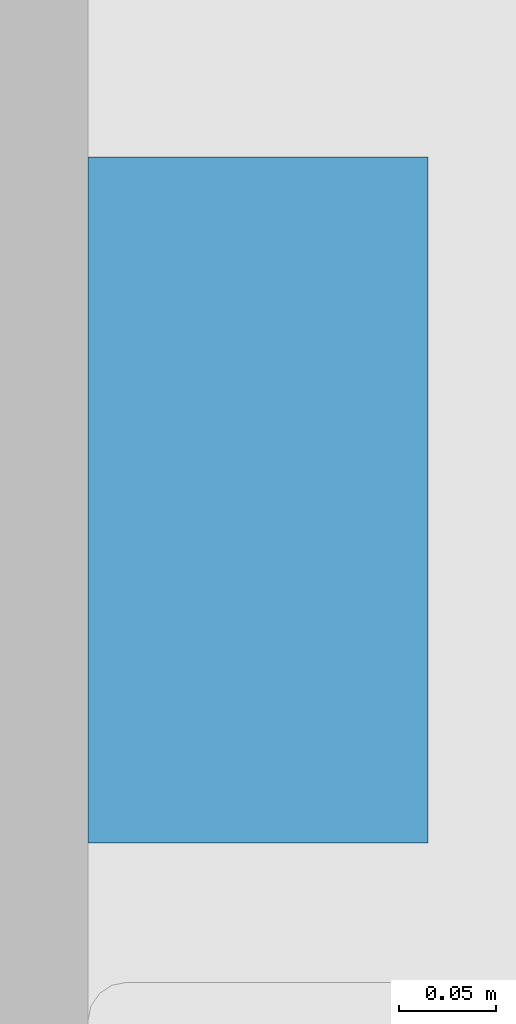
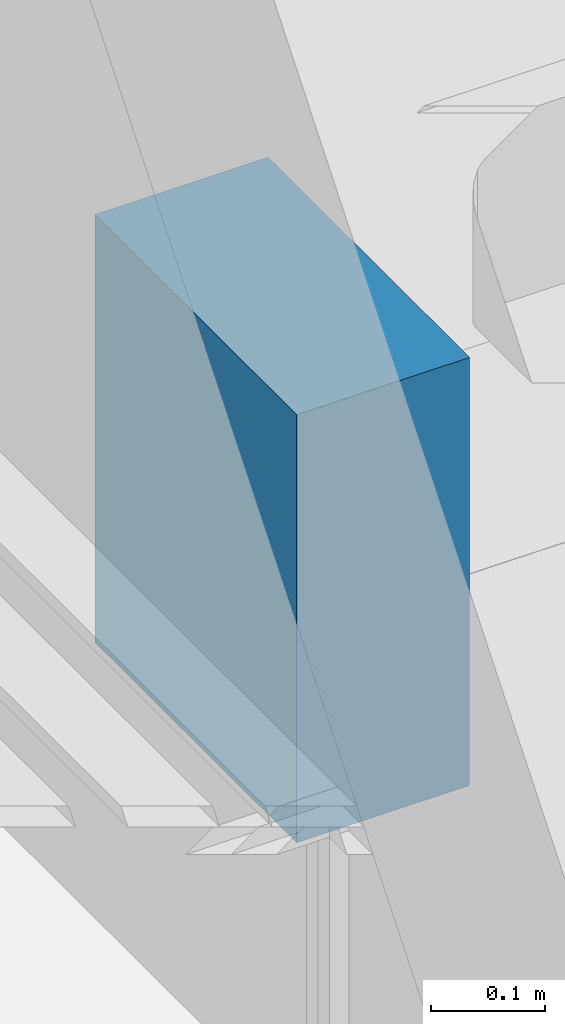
# One storey, part 227 of 301: 1 discrete accessory.
"""IFC2X3 building model written with IfcOpenShell, lengths in millimetres."""

from ifc_helpers import new_model, entity, si_unit, converted_unit, derived_unit, money_unit, direction, frame, origin_with_axes, place, context, subcontext, project, spatial, faceted_brep, material, type_object, element, save


model = new_model("IFC2X3")

# Units and contexts
model_context = context("Model", 3, precision=0.01, world=origin_with_axes(), true_north=direction((0.0, 1.0)))
body_context = subcontext(model_context, "Body", "Model", "MODEL_VIEW")
ifc_project = project(units=[si_unit("LENGTHUNIT", "METRE", prefix="MILLI"), si_unit("AREAUNIT", "SQUARE_METRE"), si_unit("VOLUMEUNIT", "CUBIC_METRE"), converted_unit("PLANEANGLEUNIT", "DEGREE", entity("IfcPlaneAngleMeasure", 0.0174532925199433), si_unit("PLANEANGLEUNIT", "RADIAN"), dimensions=[0, 0, 0, 0, 0, 0, 0]), money_unit("EUR"), converted_unit("TIMEUNIT", "Year", entity("IfcTimeMeasure", 31557600.0), si_unit("TIMEUNIT", "SECOND"), dimensions=[0, 0, 1, 0, 0, 0, 0]), si_unit("MASSUNIT", "GRAM", prefix="KILO"), si_unit("THERMODYNAMICTEMPERATUREUNIT", "DEGREE_CELSIUS"), si_unit("LUMINOUSINTENSITYUNIT", "LUMEN"), si_unit("ENERGYUNIT", "JOULE", prefix="MEGA"), derived_unit("THERMALCONDUCTANCEUNIT", [(si_unit("POWERUNIT", "WATT"), 1), (si_unit("LENGTHUNIT", "METRE"), -1), (si_unit("THERMODYNAMICTEMPERATUREUNIT", "KELVIN"), -1)]), derived_unit("SPECIFICHEATCAPACITYUNIT", [(si_unit("ENERGYUNIT", "JOULE"), 1), (si_unit("MASSUNIT", "GRAM", prefix="KILO"), -1), (si_unit("THERMODYNAMICTEMPERATUREUNIT", "KELVIN"), -1)]), derived_unit("MASSDENSITYUNIT", [(si_unit("MASSUNIT", "GRAM", prefix="KILO"), 1), (si_unit("VOLUMEUNIT", "CUBIC_METRE"), -1)])], contexts=[model_context])

# Site, building, storey
site_placement = place(None, frame((0.0, 0.0, 8650.0), z_axis=(0.0, 0.0, 1.0), x_axis=(1.0, 0.0, 0.0)))
site = spatial("IfcSite", under=ifc_project, at=site_placement, Name="43301:001:0844", CompositionType="ELEMENT")
building_placement = place(site_placement, origin_with_axes())
building = spatial("IfcBuilding", under=site, at=building_placement, Name="Kuressaare Ametikooli tuulikute mehaanikute õppekorpus", CompositionType="ELEMENT")
storey_placement = place(building_placement, origin_with_axes())
storey = spatial("IfcBuildingStorey", under=building, at=storey_placement, Name="1.korrus", CompositionType="ELEMENT", Elevation=0.0)

# Discrete accessory
ifc_material = material(Name="GENEERILINE - KONSTRUKTRIOON")
discrete_accessory_type = type_object("IfcDiscreteAccessoryType", Name="GENEERILINE - KONSTRUKTRIOON 460")
discrete_accessory_placement = place(storey_placement, frame((130614.9492944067, 22543.6949800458, 100.0), z_axis=(0.0, 0.0, 1.0), x_axis=(1.0, 0.0, 0.0)))
element("IfcDiscreteAccessory", 1, at=discrete_accessory_placement, inside=storey, type_object=discrete_accessory_type, material=ifc_material, Name="PR1", context=body_context, shape_type="Brep", body=[
    faceted_brep([(0.0, 0.0, 460.0), (0.0, 0.0, 0.0), (-0.001532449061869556, -354.9999999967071, 0.0), (-0.001532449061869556, -354.9999999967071, 460.0), (175.9999999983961, -0.0007597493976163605, 460.0), (175.9999999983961, -0.0007597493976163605, 0.0), (175.9984675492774, -355.0007597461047, 0.0), (175.9984675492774, -355.0007597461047, 460.0)], [[[0, 1, 2, 3]], [[4, 5, 1, 0]], [[2, 1, 5, 6]], [[3, 2, 6, 7]], [[4, 0, 3, 7]], [[7, 6, 5, 4]]]),
])

save(model, "model.ifc")
